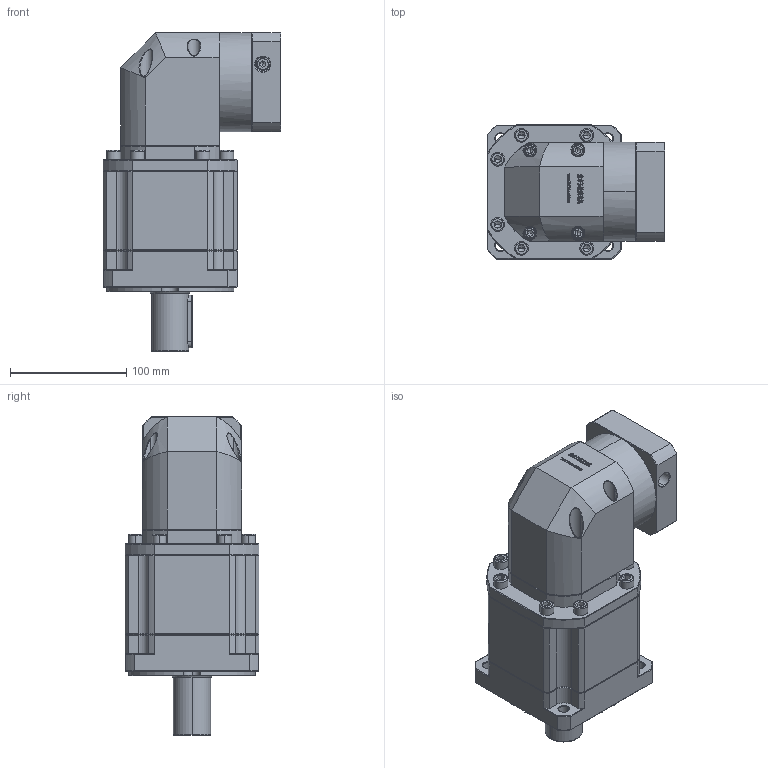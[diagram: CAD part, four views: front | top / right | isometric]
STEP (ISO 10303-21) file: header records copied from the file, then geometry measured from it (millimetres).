
FILE_DESCRIPTION (( 'STEP AP214' ), '1' );
FILE_NAME ('ZBR115A-D32-L3-19-70-90-M5.step', '2023-03-02T14:38:10', ( '' ), ( 'Microsoft' ), 'SwSTEP 2.0', 'SolidWorks 2016', '' );
FILE_SCHEMA (( 'AUTOMOTIVE_DESIGN' ));
Length unit declared in the file: millimetre
Products named in the file (1): ZBR115A-D32-L3-19-70-90-M5
Bounding box: 152.6 x 115 x 273.5 mm (x, y, z)
Volume: 2285367.1 mm3; surface area: 189323.1 mm2
Topology: 6 solids, 6 shells, 3197 faces, 8394 edges, 5348 vertices
Faces by surface type: plane 1701, bspline 633, cylinder 476, cone 373, torus 14
Entity records: 171173 total; most frequent: CARTESIAN_POINT 62348, ORIENTED_EDGE 16680, DIRECTION 12845, EDGE_CURVE 8340, LINE 5597, VECTOR 5597, VERTEX_POINT 5348, AXIS2_PLACEMENT_3D 3624
